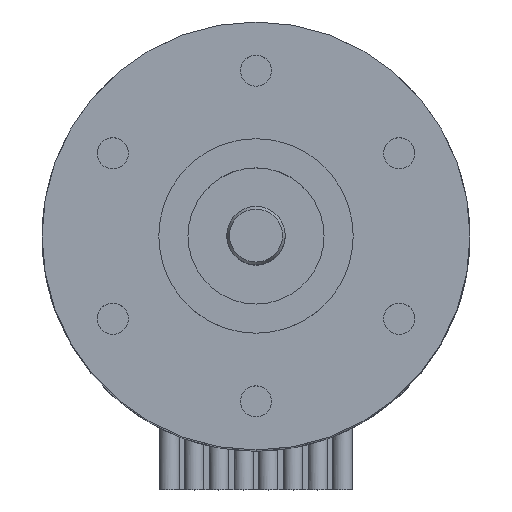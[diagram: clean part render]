
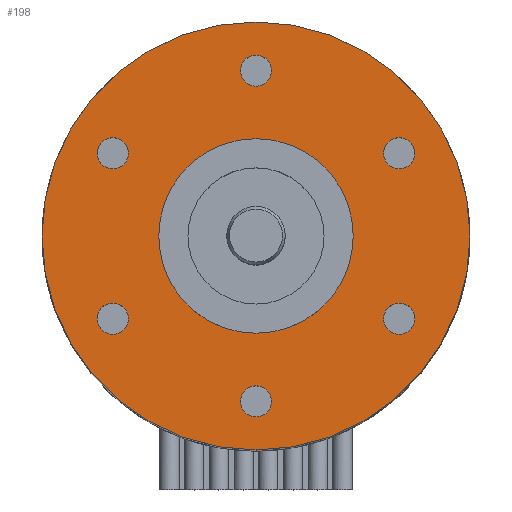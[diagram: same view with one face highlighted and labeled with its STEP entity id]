
A CAD part, top view. The second image highlights one B-rep face of the part: STEP entity #198.
In plain terms, the highlighted planar face has unit normal (0, 0, 1).
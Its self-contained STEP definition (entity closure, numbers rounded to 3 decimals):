
#70=FACE_BOUND('',#436,.T.);
#71=FACE_BOUND('',#437,.T.);
#72=FACE_BOUND('',#438,.T.);
#73=FACE_BOUND('',#439,.T.);
#74=FACE_BOUND('',#440,.T.);
#75=FACE_BOUND('',#441,.T.);
#76=FACE_BOUND('',#442,.T.);
#77=FACE_BOUND('',#443,.T.);
#198=ADVANCED_FACE('',(#70,#71,#72,#73,#74,#75,#76,#77),#294,.T.);
#294=PLANE('',#1779);
#436=EDGE_LOOP('',(#911));
#437=EDGE_LOOP('',(#912));
#438=EDGE_LOOP('',(#913));
#439=EDGE_LOOP('',(#914));
#440=EDGE_LOOP('',(#915));
#441=EDGE_LOOP('',(#916));
#442=EDGE_LOOP('',(#917));
#443=EDGE_LOOP('',(#918));
#911=ORIENTED_EDGE('',*,*,#1493,.T.);
#912=ORIENTED_EDGE('',*,*,#1494,.T.);
#913=ORIENTED_EDGE('',*,*,#1495,.T.);
#914=ORIENTED_EDGE('',*,*,#1496,.T.);
#915=ORIENTED_EDGE('',*,*,#1497,.T.);
#916=ORIENTED_EDGE('',*,*,#1498,.T.);
#917=ORIENTED_EDGE('',*,*,#1499,.F.);
#918=ORIENTED_EDGE('',*,*,#1491,.F.);
#1305=VERTEX_POINT('',#2868);
#1307=VERTEX_POINT('',#2873);
#1308=VERTEX_POINT('',#2875);
#1309=VERTEX_POINT('',#2877);
#1310=VERTEX_POINT('',#2879);
#1311=VERTEX_POINT('',#2881);
#1312=VERTEX_POINT('',#2883);
#1313=VERTEX_POINT('',#2885);
#1491=EDGE_CURVE('',#1305,#1305,#1621,.T.);
#1493=EDGE_CURVE('',#1307,#1307,#1623,.T.);
#1494=EDGE_CURVE('',#1308,#1308,#1624,.T.);
#1495=EDGE_CURVE('',#1309,#1309,#1625,.T.);
#1496=EDGE_CURVE('',#1310,#1310,#1626,.T.);
#1497=EDGE_CURVE('',#1311,#1311,#1627,.T.);
#1498=EDGE_CURVE('',#1312,#1312,#1628,.T.);
#1499=EDGE_CURVE('',#1313,#1313,#1629,.T.);
#1621=CIRCLE('',#1769,11.);
#1623=CIRCLE('',#1772,0.8);
#1624=CIRCLE('',#1773,0.8);
#1625=CIRCLE('',#1774,0.8);
#1626=CIRCLE('',#1775,0.8);
#1627=CIRCLE('',#1776,0.8);
#1628=CIRCLE('',#1777,0.8);
#1629=CIRCLE('',#1778,5.);
#1769=AXIS2_PLACEMENT_3D('',#2867,#2159,#2160);
#1772=AXIS2_PLACEMENT_3D('',#2872,#2165,#2166);
#1773=AXIS2_PLACEMENT_3D('',#2874,#2167,#2168);
#1774=AXIS2_PLACEMENT_3D('',#2876,#2169,#2170);
#1775=AXIS2_PLACEMENT_3D('',#2878,#2171,#2172);
#1776=AXIS2_PLACEMENT_3D('',#2880,#2173,#2174);
#1777=AXIS2_PLACEMENT_3D('',#2882,#2175,#2176);
#1778=AXIS2_PLACEMENT_3D('',#2884,#2177,#2178);
#1779=AXIS2_PLACEMENT_3D('',#2886,#2179,#2180);
#2159=DIRECTION('',(0.,0.,-1.));
#2160=DIRECTION('',(-1.,0.,0.));
#2165=DIRECTION('',(0.,0.,-1.));
#2166=DIRECTION('',(-0.5,0.866,0.));
#2167=DIRECTION('',(0.,0.,-1.));
#2168=DIRECTION('',(0.5,0.866,0.));
#2169=DIRECTION('',(0.,0.,-1.));
#2170=DIRECTION('',(1.,0.,0.));
#2171=DIRECTION('',(0.,0.,-1.));
#2172=DIRECTION('',(0.5,-0.866,0.));
#2173=DIRECTION('',(0.,0.,-1.));
#2174=DIRECTION('',(-0.5,-0.866,0.));
#2175=DIRECTION('',(0.,0.,-1.));
#2176=DIRECTION('',(-1.,0.,0.));
#2177=DIRECTION('',(0.,0.,1.));
#2178=DIRECTION('',(1.,0.,0.));
#2179=DIRECTION('',(0.,0.,1.));
#2180=DIRECTION('',(1.,0.,0.));
#2867=CARTESIAN_POINT('',(0.,0.,0.));
#2868=CARTESIAN_POINT('',(-11.,0.,0.));
#2872=CARTESIAN_POINT('',(7.361,4.25,0.));
#2873=CARTESIAN_POINT('',(6.961,4.943,0.));
#2874=CARTESIAN_POINT('',(7.361,-4.25,0.));
#2875=CARTESIAN_POINT('',(7.761,-3.557,0.));
#2876=CARTESIAN_POINT('',(0.,-8.5,0.));
#2877=CARTESIAN_POINT('',(0.8,-8.5,0.));
#2878=CARTESIAN_POINT('',(-7.361,-4.25,0.));
#2879=CARTESIAN_POINT('',(-6.961,-4.943,0.));
#2880=CARTESIAN_POINT('',(-7.361,4.25,0.));
#2881=CARTESIAN_POINT('',(-7.761,3.557,0.));
#2882=CARTESIAN_POINT('',(0.,8.5,0.));
#2883=CARTESIAN_POINT('',(-0.8,8.5,0.));
#2884=CARTESIAN_POINT('',(0.,0.,0.));
#2885=CARTESIAN_POINT('',(5.,0.,0.));
#2886=CARTESIAN_POINT('',(0.,0.,0.));
